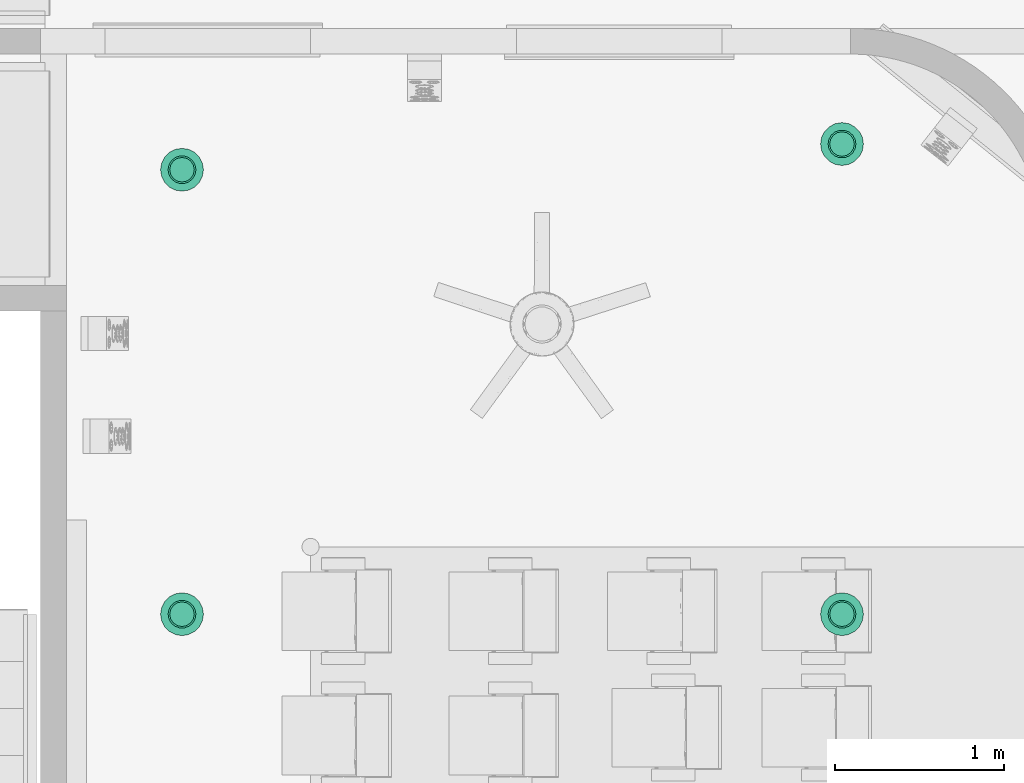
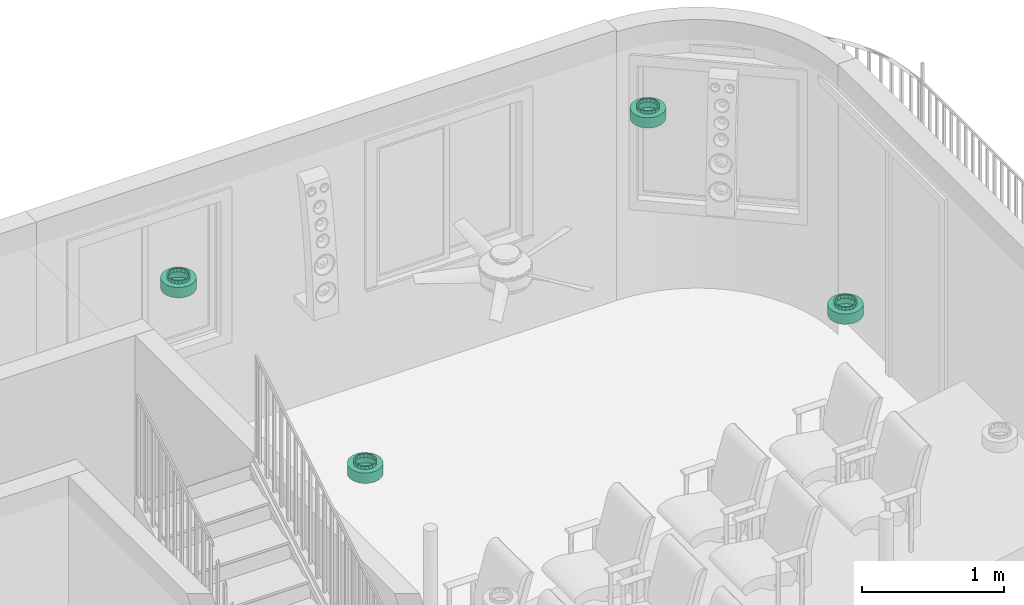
# One storey, part 17 of 21: 4 flow terminals.
"""IFC2X3 building model written with IfcOpenShell, lengths in feet."""

import ifcopenshell
import ifcopenshell.guid

model = None  # the IFC model being written
_history = None  # IfcOwnerHistory: only IFC2X3 demands one
_inside = {}  # id of a spatial element -> (the spatial element, [elements in it])
_under = {}  # id of a project, library or spatial element -> (it, [spatial elements below it])
_declared = {}  # id of a project -> (the project, [libraries it declares])
_typed = {}  # id of a type object -> (the type object, [elements of that type])
_made_of = {}  # id of a material, layer set ... -> (it, [elements and type objects made of it])


def new_model(schema):
    """Start an empty IFC model of exactly this schema.

    Asked for "IFC4X3", IfcOpenShell would pick the latest addendum, in which some entities
    have other attributes; the version numbers below select the first issue.
    IFC2X3 requires an IfcOwnerHistory on every rooted entity: one is made here for all.
    """
    global model, _history
    if schema == "IFC4X3":
        model = ifcopenshell.file(schema_version=(4, 3, 0, 0))
    else:
        model = ifcopenshell.file(schema=schema)
    _inside.clear()
    _under.clear()
    _declared.clear()
    _typed.clear()
    _made_of.clear()
    _history = None
    if model.schema == "IFC2X3":
        org = make("IfcOrganization", Name="unknown")
        user = make(
            "IfcPersonAndOrganization",
            ThePerson=make("IfcPerson", FamilyName="unknown"),
            TheOrganization=org,
        )
        app = make(
            "IfcApplication",
            ApplicationDeveloper=org,
            Version="unknown",
            ApplicationFullName="unknown",
            ApplicationIdentifier="unknown",
        )
        _history = make(
            "IfcOwnerHistory",
            OwningUser=user,
            OwningApplication=app,
            ChangeAction="ADDED",
            CreationDate=0,
        )
    return model


def make(cls, **values):
    """One entity of the class cls with the attributes given. An attribute that is None is left unset."""
    return model.create_entity(
        cls, **{name: value for name, value in values.items() if value is not None}
    )


def entity(cls, *values):
    """Any entity or typed value of the class cls, its attributes in the order of the schema. None: left unset."""
    e = model.create_entity(cls)
    for i, value in enumerate(values):
        if value is not None:
            e[i] = value
    return e


def rooted(cls, **values):
    """An entity with a GlobalId (a new one), such as an element, a storey or a relation."""
    return make(cls, GlobalId=ifcopenshell.guid.new(), OwnerHistory=_history, **values)


def si_unit(unit_type, name, prefix=None):
    """IfcSIUnit, for example si_unit("LENGTHUNIT", "METRE", prefix="MILLI")."""
    return make("IfcSIUnit", UnitType=unit_type, Prefix=prefix, Name=name)


def converted_unit(unit_type, name, factor, base, dimensions=None, offset=None):
    """IfcConversionBasedUnit, such as the inch: factor (a typed value) times the base unit."""
    return make(
        "IfcConversionBasedUnit"
        if offset is None
        else "IfcConversionBasedUnitWithOffset",
        ConversionOffset=offset,
        Dimensions=None
        if dimensions is None
        else entity("IfcDimensionalExponents", *dimensions),
        UnitType=unit_type,
        Name=name,
        ConversionFactor=make(
            "IfcMeasureWithUnit", ValueComponent=factor, UnitComponent=base
        ),
    )


def derived_unit(unit_type, elements):
    """IfcDerivedUnit: a product of units, each with its exponent."""
    return make(
        "IfcDerivedUnit",
        Elements=[
            make("IfcDerivedUnitElement", Unit=unit, Exponent=power)
            for unit, power in elements
        ],
        UnitType=unit_type,
    )


def assignment(units):
    """IfcUnitAssignment: the units of a project."""
    return None if units is None else make("IfcUnitAssignment", Units=units)


def point(xyz):
    """IfcCartesianPoint."""
    return None if xyz is None else make("IfcCartesianPoint", Coordinates=xyz)


def direction(xyz):
    """IfcDirection."""
    return None if xyz is None else make("IfcDirection", DirectionRatios=xyz)


def frame(location, z_axis=None, x_axis=None):
    """IfcAxis2Placement3D, a coordinate frame: its origin and axes. An axis left out is left unset."""
    return make(
        "IfcAxis2Placement3D",
        Location=point(location),
        Axis=direction(z_axis),
        RefDirection=direction(x_axis),
    )


def origin():
    """The frame at (0, 0, 0) with its axes left unset."""
    return frame((0.0, 0.0, 0.0))


def place(relative_to, where):
    """IfcLocalPlacement: puts the frame where relative to a parent placement (None: the world)."""
    return make(
        "IfcLocalPlacement", PlacementRelTo=relative_to, RelativePlacement=where
    )


def context(
    kind, dimensions, precision=None, world=None, true_north=None, identifier=None
):
    """IfcGeometricRepresentationContext, for example the 3D "Model" context."""
    return make(
        "IfcGeometricRepresentationContext",
        ContextIdentifier=identifier,
        ContextType=kind,
        CoordinateSpaceDimension=dimensions,
        Precision=precision,
        WorldCoordinateSystem=world,
        TrueNorth=true_north,
    )


def subcontext(parent, identifier, kind, view, scale=None):
    """IfcGeometricRepresentationSubContext, for example "Body" below "Model"."""
    return make(
        "IfcGeometricRepresentationSubContext",
        ContextIdentifier=identifier,
        ContextType=kind,
        ParentContext=parent,
        TargetScale=scale,
        TargetView=view,
    )


def project(units=None, contexts=None):
    """IfcProject with its units and contexts."""
    return rooted(
        "IfcProject",
        Name="project",
        RepresentationContexts=contexts,
        UnitsInContext=assignment(units),
    )


def spatial(cls, under=None, at=None, **own):
    """A site, building, storey or space (cls), placed at a placement, below another one or the project."""
    s = rooted(cls, ObjectPlacement=at, **own)
    if under is not None:
        _under.setdefault(under.id(), (under, []))[1].append(s)
    return s


def faces_of(points, faces, orient=None, outer=None):
    """IfcFace entities. A face is a list of loops; a loop is a list of indices into points, from 0.

    orient and outer hold one flag for each loop. By default every Orientation is true, the
    first loop of a face is its IfcFaceOuterBound and the others are IfcFaceBound.
    """
    made = []
    for i, loops in enumerate(faces):
        bounds = []
        for j, loop in enumerate(loops):
            is_outer = j == 0 if outer is None else outer[i][j]
            bounds.append(
                make(
                    "IfcFaceOuterBound" if is_outer else "IfcFaceBound",
                    Bound=make("IfcPolyLoop", Polygon=[points[k] for k in loop]),
                    Orientation=True if orient is None else orient[i][j],
                )
            )
        made.append(make("IfcFace", Bounds=bounds))
    return made


def faceted_brep(points, faces, orient=None, outer=None, voids=None):
    """IfcFacetedBrep: a solid bounded by flat faces; with voids (closed shells), ...WithVoids."""
    shared = [point(p) for p in points]
    hull = make("IfcClosedShell", CfsFaces=faces_of(shared, faces, orient, outer))
    if voids is None:
        return make("IfcFacetedBrep", Outer=hull)
    return make(
        "IfcFacetedBrepWithVoids",
        Outer=hull,
        Voids=[
            make(cls, CfsFaces=faces_of(shared, fs, o, b)) for cls, fs, o, b in voids
        ],
    )


def shape(context_of_items, identifier, shape_type, items):
    """IfcShapeRepresentation: the items that make up one representation, for example the "Body"."""
    return make(
        "IfcShapeRepresentation",
        ContextOfItems=context_of_items,
        RepresentationIdentifier=identifier,
        RepresentationType=shape_type,
        Items=items,
    )


def source(mapping_origin, context_of_items, identifier, shape_type, items):
    """IfcRepresentationMap: a shape defined once, which mapped items show again and again."""
    return make(
        "IfcRepresentationMap",
        MappingOrigin=mapping_origin,
        MappedRepresentation=shape(context_of_items, identifier, shape_type, items),
    )


def transform(
    local_origin,
    x_axis=None,
    y_axis=None,
    z_axis=None,
    scale=None,
    scale2=None,
    scale3=None,
    uniform=True,
):
    """IfcCartesianTransformationOperator3D, or its non-uniform kind. x_axis, y_axis, z_axis: its Axis1, 2, 3."""
    if uniform:
        return make(
            "IfcCartesianTransformationOperator3D",
            Axis1=direction(x_axis),
            Axis2=direction(y_axis),
            LocalOrigin=point(local_origin),
            Scale=scale,
            Axis3=direction(z_axis),
        )
    return make(
        "IfcCartesianTransformationOperator3DnonUniform",
        Axis1=direction(x_axis),
        Axis2=direction(y_axis),
        LocalOrigin=point(local_origin),
        Scale=scale,
        Axis3=direction(z_axis),
        Scale2=scale2,
        Scale3=scale3,
    )


def mapped(mapping_source, mapping_target):
    """IfcMappedItem: shows the shape of a source again, moved by a transform."""
    return make(
        "IfcMappedItem", MappingSource=mapping_source, MappingTarget=mapping_target
    )


def material(Name=None, Category=None):
    """IfcMaterial."""
    return make("IfcMaterial", Name=Name, Category=Category)


def material_list(materials):
    """IfcMaterialList."""
    return make("IfcMaterialList", Materials=materials)


def made_of(thing, what):
    """Note that an element or type object is made of a material, layer set ...; save() writes the relation."""
    if what is not None:
        _made_of.setdefault(what.id(), (what, []))[1].append(thing)
    return thing


def type_object(cls, material=None, **own):
    """A type object (cls), such as IfcWallType, which elements share."""
    return made_of(rooted(cls, **own), material)


def type_shapes(of_type, sources):
    """Give a type object the sources (RepresentationMaps) that its elements show as mapped items."""
    of_type.RepresentationMaps = sources


def element(
    cls,
    number,
    at=None,
    inside=None,
    cuts=None,
    type_object=None,
    material=None,
    context=None,
    identifier="Body",
    shape_type=None,
    held_by="IfcProductDefinitionShape",
    body=None,
    shapes=None,
    **own,
):
    """One element of the class cls, such as IfcWall. Its Tag is "e" and its number.

    at: its placement. inside: the storey or other place that contains it. cuts: it is an
    opening in that element (IfcRelVoidsElement). A single representation is given by context,
    identifier, shape_type and body (its items); several are given by shapes. held_by: the class
    of the entity that holds the representations. save() writes the other relations.
    """
    e = rooted(cls, Tag="e%d" % number, ObjectPlacement=at, **own)
    if body is not None:
        shapes = [shape(context, identifier, shape_type, body)]
    if shapes is not None:
        e.Representation = make(held_by, Representations=shapes)
    if inside is not None:
        _inside.setdefault(inside.id(), (inside, []))[1].append(e)
    if cuts is not None:
        rooted(
            "IfcRelVoidsElement", RelatingBuildingElement=cuts, RelatedOpeningElement=e
        )
    if type_object is not None:
        _typed.setdefault(type_object.id(), (type_object, []))[1].append(e)
    return made_of(e, material)


def aggregate(whole, parts):
    """IfcRelAggregates: a whole, such as a stair, and the parts it consists of."""
    return rooted("IfcRelAggregates", RelatingObject=whole, RelatedObjects=parts)


def save(model, path):
    """Write the relations noted so far, then the file.

    IfcRelAggregates (storeys below a building ...), IfcRelContainedInSpatialStructure (elements
    in a storey), IfcRelDefinesByType, IfcRelAssociatesMaterial and IfcRelDeclares: one each for
    every whole, place, type object, material and project.
    """
    for whole, parts in _under.values():
        aggregate(whole, parts)
    for where, things in _inside.values():
        rooted(
            "IfcRelContainedInSpatialStructure",
            RelatedElements=things,
            RelatingStructure=where,
        )
    for kind, things in _typed.values():
        rooted("IfcRelDefinesByType", RelatedObjects=things, RelatingType=kind)
    for what, things in _made_of.values():
        rooted("IfcRelAssociatesMaterial", RelatedObjects=things, RelatingMaterial=what)
    for by, libraries in _declared.values():
        rooted("IfcRelDeclares", RelatingContext=by, RelatedDefinitions=libraries)
    model.write(path)


model = new_model("IFC2X3")

# Units and contexts
model_context = context("Model", 3, precision=0.0001, world=origin(), true_north=direction((6.12303176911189e-17, 1.0)))
body_context = subcontext(model_context, "Body", "Model", "MODEL_VIEW")
ifc_project = project(units=[converted_unit("LENGTHUNIT", "FOOT", entity("IfcRatioMeasure", 0.3048), si_unit("LENGTHUNIT", "METRE"), dimensions=[1, 0, 0, 0, 0, 0, 0]), converted_unit("AREAUNIT", "SQUARE FOOT", entity("IfcRatioMeasure", 0.09290304), si_unit("AREAUNIT", "SQUARE_METRE"), dimensions=[2, 0, 0, 0, 0, 0, 0]), converted_unit("VOLUMEUNIT", "CUBIC FOOT", entity("IfcRatioMeasure", 0.028316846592), si_unit("VOLUMEUNIT", "CUBIC_METRE"), dimensions=[3, 0, 0, 0, 0, 0, 0]), converted_unit("PLANEANGLEUNIT", "DEGREE", entity("IfcRatioMeasure", 0.0174532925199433), si_unit("PLANEANGLEUNIT", "RADIAN"), dimensions=[0, 0, 0, 0, 0, 0, 0]), si_unit("MASSUNIT", "GRAM", prefix="KILO"), derived_unit("MASSDENSITYUNIT", [(si_unit("MASSUNIT", "GRAM", prefix="KILO"), 1), (si_unit("LENGTHUNIT", "METRE"), -3)]), si_unit("TIMEUNIT", "SECOND"), si_unit("FREQUENCYUNIT", "HERTZ"), si_unit("THERMODYNAMICTEMPERATUREUNIT", "DEGREE_CELSIUS"), derived_unit("THERMALTRANSMITTANCEUNIT", [(si_unit("MASSUNIT", "GRAM", prefix="KILO"), 1), (si_unit("THERMODYNAMICTEMPERATUREUNIT", "KELVIN"), -1), (si_unit("TIMEUNIT", "SECOND"), -3)]), derived_unit("VOLUMETRICFLOWRATEUNIT", [(si_unit("LENGTHUNIT", "METRE"), 3), (si_unit("TIMEUNIT", "SECOND"), -1)]), si_unit("ELECTRICCURRENTUNIT", "AMPERE"), si_unit("ELECTRICVOLTAGEUNIT", "VOLT"), si_unit("POWERUNIT", "WATT"), si_unit("FORCEUNIT", "NEWTON"), si_unit("ILLUMINANCEUNIT", "LUX"), si_unit("LUMINOUSFLUXUNIT", "LUMEN"), si_unit("LUMINOUSINTENSITYUNIT", "CANDELA"), derived_unit("USERDEFINED", [(si_unit("MASSUNIT", "GRAM", prefix="KILO"), -1), (si_unit("LENGTHUNIT", "METRE"), -2), (si_unit("TIMEUNIT", "SECOND"), 3), (si_unit("LUMINOUSFLUXUNIT", "LUMEN"), 1)]), derived_unit("LINEARVELOCITYUNIT", [(si_unit("LENGTHUNIT", "METRE"), 1), (si_unit("TIMEUNIT", "SECOND"), -1)]), si_unit("PRESSUREUNIT", "PASCAL"), derived_unit("USERDEFINED", [(si_unit("LENGTHUNIT", "METRE"), -2), (si_unit("MASSUNIT", "GRAM", prefix="KILO"), 1), (si_unit("TIMEUNIT", "SECOND"), -2)])], contexts=[model_context])

# Site, building, storey
site_placement = place(None, origin())
site = spatial("IfcSite", under=ifc_project, at=site_placement, Name="表面", CompositionType="ELEMENT")
building_placement = place(site_placement, origin())
building = spatial("IfcBuilding", under=site, at=building_placement, CompositionType="ELEMENT")
storey_placement = place(building_placement, origin())
storey = spatial("IfcBuildingStorey", under=building, at=storey_placement, Name="Level 1", CompositionType="ELEMENT", Elevation=0.0)

# Flow terminals
ifc_material_1 = material(Name="Metal - Paint Finish - Dark Gray, Matte")
ifc_material_2 = material(Name="Glass - White, High Luminance")
ifc_material_list_1 = material_list([ifc_material_1, ifc_material_2])
ifc_material_list_2 = material_list([ifc_material_1, ifc_material_2])
light_fixture_type = type_object("IfcLightFixtureType", Name="100W - 120V", PredefinedType="NOTDEFINED", material=ifc_material_list_2)
shared_shape = source(origin(), body_context, "Body", "Brep", [
    faceted_brep([(0.557291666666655, 0.187326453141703, 0.374999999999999), (0.598651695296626, 0.245098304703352, 0.374999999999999), (0.558098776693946, 0.218001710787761, 0.374999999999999), (0.629345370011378, 0.247786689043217, 0.374999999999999), (0.517545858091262, 0.190905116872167, 0.374999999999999), (0.468904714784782, 0.155156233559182, 0.374999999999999), (0.625748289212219, 0.285651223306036, 0.374999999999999), (0.65284488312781, 0.326204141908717, 0.374999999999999), (0.676375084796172, 0.329244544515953, 0.374999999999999), (0.6623599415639, 0.374039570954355, 0.374999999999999), (0.671874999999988, 0.42187499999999, 0.374999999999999), (0.692708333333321, 0.421874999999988, 0.374999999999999), (0.676375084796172, 0.514505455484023, 0.374999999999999), (0.662359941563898, 0.469710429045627, 0.374999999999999), (0.652844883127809, 0.517545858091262, 0.374999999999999), (0.629345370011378, 0.595963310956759, 0.374999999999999), (0.625748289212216, 0.558098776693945, 0.374999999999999), (0.598651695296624, 0.598651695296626, 0.374999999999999), (0.557291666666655, 0.656423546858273, 0.374999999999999), (0.55809877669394, 0.625748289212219, 0.374999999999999), (0.517545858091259, 0.65284488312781, 0.374999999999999), (0.468904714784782, 0.688593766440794, 0.374999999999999), (0.469710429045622, 0.662359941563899, 0.374999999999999), (0.421874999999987, 0.671874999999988, 0.374999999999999), (0.374845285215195, 0.688593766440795, 0.374999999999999), (0.374039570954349, 0.662359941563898, 0.374999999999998), (0.326204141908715, 0.652844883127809, 0.374999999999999), (0.286458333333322, 0.656423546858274, 0.374999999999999), (0.285651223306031, 0.625748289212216, 0.374999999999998), (0.245098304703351, 0.598651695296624, 0.374999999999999), (0.214404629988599, 0.59596331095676, 0.374999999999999), (0.218001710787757, 0.558098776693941, 0.374999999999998), (0.190905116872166, 0.51754585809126, 0.374999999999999), (0.167374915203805, 0.514505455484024, 0.374999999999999), (0.181390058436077, 0.469710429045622, 0.374999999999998), (0.171874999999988, 0.421874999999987, 0.374999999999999), (0.151041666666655, 0.421874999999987, 0.374999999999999), (0.167374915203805, 0.329244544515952, 0.374999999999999), (0.181390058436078, 0.374039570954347, 0.374999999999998), (0.190905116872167, 0.326204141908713, 0.374999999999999), (0.214404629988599, 0.247786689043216, 0.374999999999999), (0.218001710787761, 0.28565122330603, 0.374999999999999), (0.245098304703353, 0.245098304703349, 0.374999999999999), (0.286458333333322, 0.187326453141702, 0.374999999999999), (0.285651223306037, 0.218001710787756, 0.374999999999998), (0.326204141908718, 0.190905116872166, 0.374999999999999), (0.374845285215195, 0.155156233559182, 0.374999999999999), (0.42187499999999, 0.171874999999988, 0.374999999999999), (0.374039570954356, 0.181390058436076, 0.374999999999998), (0.469710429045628, 0.181390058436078, 0.374999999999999), (0.557291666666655, 0.656423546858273, 0.291666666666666), (0.598651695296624, 0.598651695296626, 0.291666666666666), (0.55809877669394, 0.625748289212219, 0.291666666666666), (0.629345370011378, 0.595963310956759, 0.291666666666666), (0.517545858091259, 0.65284488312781, 0.291666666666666), (0.468904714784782, 0.688593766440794, 0.291666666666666), (0.625748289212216, 0.558098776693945, 0.291666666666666), (0.652844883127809, 0.517545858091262, 0.291666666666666), (0.676375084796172, 0.514505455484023, 0.291666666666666), (0.662359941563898, 0.469710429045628, 0.291666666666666), (0.671874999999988, 0.42187499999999, 0.291666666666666), (0.692708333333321, 0.421874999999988, 0.291666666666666), (0.676375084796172, 0.329244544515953, 0.291666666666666), (0.659760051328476, 0.36096904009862, 0.291666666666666), (0.65284488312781, 0.326204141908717, 0.291666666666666), (0.629345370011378, 0.247786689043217, 0.291666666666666), (0.625748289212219, 0.285651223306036, 0.291666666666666), (0.598651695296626, 0.245098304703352, 0.291666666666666), (0.557291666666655, 0.187326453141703, 0.291666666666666), (0.558098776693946, 0.218001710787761, 0.291666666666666), (0.517545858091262, 0.190905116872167, 0.291666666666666), (0.468904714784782, 0.155156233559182, 0.291666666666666), (0.469710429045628, 0.181390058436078, 0.291666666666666), (0.42187499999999, 0.171874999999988, 0.291666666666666), (0.374845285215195, 0.155156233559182, 0.291666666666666), (0.374039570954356, 0.181390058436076, 0.291666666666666), (0.326204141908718, 0.190905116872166, 0.291666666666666), (0.286458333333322, 0.187326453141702, 0.291666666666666), (0.285651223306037, 0.218001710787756, 0.291666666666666), (0.245098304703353, 0.245098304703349, 0.291666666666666), (0.214404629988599, 0.247786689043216, 0.291666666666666), (0.218001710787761, 0.28565122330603, 0.291666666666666), (0.190905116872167, 0.326204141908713, 0.291666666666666), (0.167374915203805, 0.329244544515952, 0.291666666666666), (0.181390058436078, 0.374039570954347, 0.291666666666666), (0.171874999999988, 0.421874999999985, 0.291666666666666), (0.151041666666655, 0.421874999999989, 0.291666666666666), (0.167374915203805, 0.514505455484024, 0.291666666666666), (0.183989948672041, 0.482780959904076, 0.291666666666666), (0.190905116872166, 0.51754585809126, 0.291666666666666), (0.214404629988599, 0.59596331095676, 0.291666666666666), (0.218001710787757, 0.558098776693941, 0.291666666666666), (0.245098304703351, 0.598651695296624, 0.291666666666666), (0.286458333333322, 0.656423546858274, 0.291666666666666), (0.285651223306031, 0.625748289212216, 0.291666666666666), (0.326204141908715, 0.652844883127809, 0.291666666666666), (0.374845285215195, 0.688593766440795, 0.291666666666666), (0.421874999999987, 0.671874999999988, 0.291666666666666), (0.374039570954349, 0.662359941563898, 0.291666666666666), (0.469710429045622, 0.662359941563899, 0.291666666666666)], [[[0, 1, 2]], [[1, 0, 3]], [[0, 2, 4]], [[4, 5, 0]], [[3, 6, 1]], [[3, 7, 6]], [[7, 3, 8]], [[8, 9, 7]], [[8, 10, 9]], [[10, 8, 11]], [[10, 11, 12]], [[12, 13, 10]], [[12, 14, 13]], [[15, 14, 12]], [[15, 16, 14]], [[15, 17, 16]], [[18, 17, 15]], [[18, 19, 17]], [[18, 20, 19]], [[21, 20, 18]], [[21, 22, 20]], [[21, 23, 22]], [[24, 23, 21]], [[24, 25, 23]], [[24, 26, 25]], [[27, 26, 24]], [[27, 28, 26]], [[27, 29, 28]], [[29, 27, 30]], [[30, 31, 29]], [[30, 32, 31]], [[32, 30, 33]], [[33, 34, 32]], [[33, 35, 34]], [[36, 35, 33]], [[37, 35, 36]], [[37, 38, 35]], [[37, 39, 38]], [[39, 37, 40]], [[40, 41, 39]], [[40, 42, 41]], [[42, 40, 43]], [[43, 44, 42]], [[43, 45, 44]], [[45, 43, 46]], [[47, 46, 5]], [[46, 47, 48]], [[46, 48, 45]], [[5, 4, 49]], [[5, 49, 47]], [[50, 51, 52]], [[51, 50, 53]], [[50, 52, 54]], [[54, 55, 50]], [[53, 56, 51]], [[53, 57, 56]], [[57, 53, 58]], [[58, 59, 57]], [[58, 60, 59]], [[60, 58, 61]], [[60, 61, 62]], [[62, 63, 60]], [[62, 64, 63]], [[65, 64, 62]], [[65, 66, 64]], [[65, 67, 66]], [[68, 67, 65]], [[68, 69, 67]], [[68, 70, 69]], [[71, 70, 68]], [[71, 72, 70]], [[71, 73, 72]], [[74, 73, 71]], [[74, 75, 73]], [[74, 76, 75]], [[77, 76, 74]], [[77, 78, 76]], [[77, 79, 78]], [[79, 77, 80]], [[80, 81, 79]], [[80, 82, 81]], [[82, 80, 83]], [[83, 84, 82]], [[83, 85, 84]], [[86, 85, 83]], [[87, 85, 86]], [[87, 88, 85]], [[87, 89, 88]], [[89, 87, 90]], [[90, 91, 89]], [[90, 92, 91]], [[92, 90, 93]], [[93, 94, 92]], [[93, 95, 94]], [[95, 93, 96]], [[97, 96, 55]], [[96, 97, 98]], [[96, 98, 95]], [[55, 54, 99]], [[55, 99, 97]], [[37, 36, 86, 83]], [[43, 40, 80, 77]], [[83, 80, 40, 37]], [[77, 74, 46, 43]], [[74, 71, 5, 46]], [[0, 5, 71, 68]], [[8, 3, 65, 62]], [[68, 65, 3, 0]], [[62, 61, 11, 8]], [[12, 11, 61, 58]], [[18, 15, 53, 50]], [[58, 53, 15, 12]], [[50, 55, 21, 18]], [[55, 96, 24, 21]], [[27, 24, 96, 93]], [[87, 33, 30, 90]], [[90, 30, 27, 93]], [[33, 87, 86, 36]], [[34, 35, 85, 88, 89, 32]], [[89, 91, 92, 29, 31, 32]], [[59, 60, 10, 13, 14, 57]], [[92, 94, 95, 26, 28, 29]], [[23, 25, 26, 95, 98, 97]], [[97, 99, 54, 20, 22, 23]], [[16, 17, 51, 56, 57, 14]], [[54, 52, 51, 17, 19, 20]], [[9, 10, 60, 63, 64, 7]], [[64, 66, 67, 1, 6, 7]], [[84, 85, 35, 38, 39, 82]], [[67, 69, 70, 4, 2, 1]], [[47, 49, 4, 70, 72, 73]], [[73, 75, 76, 45, 48, 47]], [[41, 42, 79, 81, 82, 39]], [[76, 78, 79, 42, 44, 45]]]),
    faceted_brep([(0.671874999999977, 0.421874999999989, 0.291666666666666), (0.838541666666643, 0.421874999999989, 0.291666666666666), (0.81814854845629, 0.550632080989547, 0.291666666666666), (0.818148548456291, 0.293117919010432, 0.291666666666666), (0.659760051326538, 0.360969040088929, 0.291666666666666), (0.662359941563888, 0.469710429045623, 0.291666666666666), (0.6528448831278, 0.326204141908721, 0.291666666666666), (0.758965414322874, 0.176964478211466, 0.291666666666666), (0.625748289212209, 0.28565122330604, 0.291666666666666), (0.598651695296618, 0.24509830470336, 0.291666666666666), (0.666785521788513, 0.084784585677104, 0.291666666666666), (0.558098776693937, 0.218001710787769, 0.291666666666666), (0.517545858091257, 0.190905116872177, 0.291666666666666), (0.550632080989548, 0.025601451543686, 0.291666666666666), (0.469710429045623, 0.181390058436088, 0.291666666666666), (0.421874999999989, 0.171874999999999, 0.291666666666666), (0.42187499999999, 0.00520833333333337, 0.291666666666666), (0.293117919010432, 0.0256014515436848, 0.291666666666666), (0.374039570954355, 0.181390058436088, 0.291666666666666), (0.326204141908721, 0.190905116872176, 0.291666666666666), (0.176964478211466, 0.0847845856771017, 0.291666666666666), (0.285651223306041, 0.218001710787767, 0.291666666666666), (0.24509830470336, 0.245098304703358, 0.291666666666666), (0.0847845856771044, 0.176964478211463, 0.291666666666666), (0.218001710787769, 0.285651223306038, 0.291666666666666), (0.190905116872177, 0.326204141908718, 0.291666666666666), (0.0256014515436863, 0.293117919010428, 0.291666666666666), (0.181390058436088, 0.374039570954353, 0.291666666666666), (0.171874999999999, 0.421874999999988, 0.291666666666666), (0.00520833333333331, 0.421874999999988, 0.291666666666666), (0.0256014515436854, 0.550632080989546, 0.291666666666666), (0.183989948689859, 0.482780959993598, 0.291666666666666), (0.190905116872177, 0.517545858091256, 0.291666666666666), (0.0847845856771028, 0.666785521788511, 0.291666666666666), (0.218001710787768, 0.558098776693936, 0.291666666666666), (0.245098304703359, 0.598651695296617, 0.291666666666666), (0.176964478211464, 0.758965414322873, 0.291666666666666), (0.285651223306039, 0.625748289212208, 0.291666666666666), (0.32620414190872, 0.652844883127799, 0.291666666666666), (0.29311791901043, 0.81814854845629, 0.291666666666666), (0.374039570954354, 0.662359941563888, 0.291666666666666), (0.421874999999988, 0.671874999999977, 0.291666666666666), (0.421874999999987, 0.838541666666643, 0.291666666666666), (0.550632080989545, 0.818148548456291, 0.291666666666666), (0.469710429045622, 0.662359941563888, 0.291666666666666), (0.517545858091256, 0.6528448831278, 0.291666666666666), (0.666785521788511, 0.758965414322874, 0.291666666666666), (0.558098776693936, 0.625748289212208, 0.291666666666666), (0.598651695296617, 0.598651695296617, 0.291666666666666), (0.758965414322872, 0.666785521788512, 0.291666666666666), (0.625748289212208, 0.558098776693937, 0.291666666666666), (0.652844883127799, 0.517545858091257, 0.291666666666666), (0.0256014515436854, 0.550632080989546, 0.0), (0.00520833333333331, 0.421874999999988, 0.0), (0.0847845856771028, 0.666785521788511, 0.0), (0.176964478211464, 0.758965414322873, 0.0), (0.29311791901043, 0.818148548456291, 0.0), (0.421874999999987, 0.838541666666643, 0.0), (0.550632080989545, 0.818148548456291, 0.0), (0.666785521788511, 0.758965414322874, 0.0), (0.758965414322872, 0.666785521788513, 0.0), (0.81814854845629, 0.550632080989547, 0.0), (0.838541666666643, 0.42187499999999, 0.0), (0.818148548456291, 0.293117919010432, 0.0), (0.666785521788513, 0.0847845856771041, 0.0), (0.550632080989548, 0.025601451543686, 0.0), (0.42187499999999, 0.00520833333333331, 0.0), (0.758965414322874, 0.176964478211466, 0.0), (0.293117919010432, 0.0256014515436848, 0.0), (0.176964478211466, 0.0847845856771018, 0.0), (0.0847845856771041, 0.176964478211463, 0.0), (0.025601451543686, 0.293117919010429, 0.0), (0.421874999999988, 0.421874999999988, 0.0), (0.808241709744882, 0.547413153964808, 0.0104166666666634), (0.421874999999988, 0.421874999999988, 0.0104166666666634), (0.828124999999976, 0.421874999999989, 0.0104166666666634), (0.7505381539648, 0.660662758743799, 0.0104166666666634), (0.660662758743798, 0.750538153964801, 0.0104166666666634), (0.547413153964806, 0.808241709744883, 0.0104166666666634), (0.421874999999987, 0.828124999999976, 0.0104166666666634), (0.296336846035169, 0.808241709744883, 0.0104166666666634), (0.183087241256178, 0.750538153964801, 0.0104166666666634), (0.0932118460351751, 0.660662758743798, 0.0104166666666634), (0.0355082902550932, 0.547413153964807, 0.0104166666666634), (0.0156249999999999, 0.421874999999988, 0.0104166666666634), (0.0355082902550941, 0.296336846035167, 0.0104166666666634), (0.0932118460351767, 0.183087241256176, 0.0104166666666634), (0.18308724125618, 0.093211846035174, 0.0104166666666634), (0.296336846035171, 0.0355082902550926, 0.0104166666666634), (0.42187499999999, 0.0156249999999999, 0.0104166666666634), (0.547413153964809, 0.0355082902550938, 0.0104166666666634), (0.6606627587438, 0.0932118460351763, 0.0104166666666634), (0.750538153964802, 0.183087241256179, 0.0104166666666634), (0.808241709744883, 0.296336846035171, 0.0104166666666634), (0.0355082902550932, 0.547413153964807, 0.281249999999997), (0.0156249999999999, 0.421874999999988, 0.281249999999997), (0.0932118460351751, 0.660662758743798, 0.281249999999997), (0.183087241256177, 0.750538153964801, 0.281249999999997), (0.296336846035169, 0.808241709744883, 0.281249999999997), (0.421874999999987, 0.828124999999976, 0.281249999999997), (0.660662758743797, 0.750538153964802, 0.281249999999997), (0.547413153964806, 0.808241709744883, 0.281249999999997), (0.808241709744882, 0.547413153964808, 0.281249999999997), (0.7505381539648, 0.660662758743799, 0.281249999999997), (0.828124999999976, 0.42187499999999, 0.281249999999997), (0.808241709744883, 0.296336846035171, 0.281249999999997), (0.547413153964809, 0.0355082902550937, 0.281249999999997), (0.6606627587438, 0.0932118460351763, 0.281249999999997), (0.42187499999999, 0.0156249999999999, 0.281249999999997), (0.750538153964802, 0.183087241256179, 0.281249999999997), (0.183087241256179, 0.0932118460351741, 0.281249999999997), (0.296336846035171, 0.0355082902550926, 0.281249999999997), (0.0355082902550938, 0.296336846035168, 0.281249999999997), (0.0932118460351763, 0.183087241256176, 0.281249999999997), (0.66145833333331, 0.421874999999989, 0.281249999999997), (0.650878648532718, 0.475062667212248, 0.281249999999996), (0.643221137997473, 0.513559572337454, 0.281249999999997), (0.650878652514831, 0.368687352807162, 0.281249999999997), (0.643221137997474, 0.330190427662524, 0.281249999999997), (0.617253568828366, 0.291327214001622, 0.281249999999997), (0.591285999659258, 0.25246400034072, 0.281249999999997), (0.552422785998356, 0.226496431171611, 0.281249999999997), (0.513559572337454, 0.200528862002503, 0.281249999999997), (0.467717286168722, 0.191410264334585, 0.281249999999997), (0.421874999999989, 0.182291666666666, 0.281249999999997), (0.376032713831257, 0.191410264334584, 0.281249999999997), (0.330190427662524, 0.200528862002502, 0.281249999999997), (0.291327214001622, 0.22649643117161, 0.281249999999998), (0.25246400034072, 0.252464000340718, 0.281249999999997), (0.226496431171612, 0.29132721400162, 0.281249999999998), (0.200528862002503, 0.330190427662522, 0.281249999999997), (0.191410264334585, 0.376032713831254, 0.281249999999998), (0.182291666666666, 0.421874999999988, 0.281249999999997), (0.192871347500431, 0.47506264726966, 0.281249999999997), (0.200528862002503, 0.513559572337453, 0.281249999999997), (0.226496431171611, 0.552422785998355, 0.281249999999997), (0.252464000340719, 0.591285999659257, 0.281249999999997), (0.291327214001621, 0.617253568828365, 0.281249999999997), (0.330190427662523, 0.643221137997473, 0.281249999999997), (0.376032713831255, 0.652339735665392, 0.281249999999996), (0.421874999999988, 0.66145833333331, 0.281249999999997), (0.46771728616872, 0.652339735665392, 0.281249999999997), (0.513559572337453, 0.643221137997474, 0.281249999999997), (0.591285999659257, 0.591285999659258, 0.281249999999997), (0.552422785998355, 0.617253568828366, 0.281249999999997), (0.617253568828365, 0.552422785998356, 0.281249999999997), (0.191410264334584, 0.467717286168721, 0.375), (0.182291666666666, 0.421874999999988, 0.375), (0.200528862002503, 0.513559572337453, 0.375), (0.252464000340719, 0.591285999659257, 0.375), (0.226496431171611, 0.552422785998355, 0.375), (0.330190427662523, 0.643221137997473, 0.375), (0.291327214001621, 0.617253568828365, 0.375), (0.421874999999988, 0.66145833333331, 0.375), (0.376032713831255, 0.652339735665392, 0.375), (0.552422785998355, 0.617253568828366, 0.375), (0.513559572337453, 0.643221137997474, 0.375), (0.591285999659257, 0.591285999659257, 0.375), (0.643221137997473, 0.513559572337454, 0.375), (0.617253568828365, 0.552422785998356, 0.375), (0.46771728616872, 0.652339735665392, 0.375), (0.652339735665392, 0.467717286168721, 0.375), (0.66145833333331, 0.421874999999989, 0.375), (0.652339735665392, 0.376032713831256, 0.375), (0.643221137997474, 0.330190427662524, 0.375), (0.591285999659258, 0.25246400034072, 0.375), (0.617253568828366, 0.291327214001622, 0.375), (0.513559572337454, 0.200528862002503, 0.375), (0.552422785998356, 0.226496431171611, 0.375), (0.421874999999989, 0.182291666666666, 0.375), (0.467717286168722, 0.191410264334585, 0.375), (0.200528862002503, 0.330190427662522, 0.375), (0.192871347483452, 0.368687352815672, 0.375), (0.25246400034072, 0.252464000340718, 0.375), (0.291327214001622, 0.22649643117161, 0.375), (0.330190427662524, 0.200528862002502, 0.375), (0.226496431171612, 0.29132721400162, 0.375), (0.376032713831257, 0.191410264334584, 0.375), (0.671874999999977, 0.421874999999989, 0.375), (0.659760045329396, 0.482780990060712, 0.375), (0.652844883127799, 0.517545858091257, 0.375), (0.662359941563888, 0.374039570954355, 0.375), (0.6528448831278, 0.326204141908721, 0.375), (0.625748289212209, 0.28565122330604, 0.375), (0.598651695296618, 0.24509830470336, 0.375), (0.558098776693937, 0.218001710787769, 0.375), (0.517545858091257, 0.190905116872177, 0.375), (0.469710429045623, 0.181390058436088, 0.375), (0.421874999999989, 0.171874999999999, 0.375), (0.374039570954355, 0.181390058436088, 0.375), (0.326204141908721, 0.190905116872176, 0.375), (0.285651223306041, 0.218001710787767, 0.375), (0.24509830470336, 0.245098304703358, 0.375), (0.218001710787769, 0.285651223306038, 0.375), (0.190905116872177, 0.326204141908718, 0.375), (0.183989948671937, 0.360969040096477, 0.375), (0.171874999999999, 0.421874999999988, 0.375), (0.181390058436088, 0.469710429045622, 0.375), (0.190905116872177, 0.517545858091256, 0.375), (0.218001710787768, 0.558098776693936, 0.375), (0.245098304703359, 0.598651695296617, 0.375), (0.285651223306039, 0.625748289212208, 0.375), (0.32620414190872, 0.652844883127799, 0.375), (0.374039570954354, 0.662359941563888, 0.375), (0.421874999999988, 0.671874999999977, 0.375), (0.469710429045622, 0.662359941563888, 0.375), (0.517545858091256, 0.6528448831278, 0.375), (0.558098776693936, 0.625748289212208, 0.375), (0.598651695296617, 0.598651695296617, 0.375), (0.625748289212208, 0.558098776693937, 0.375)], [[[0, 1, 2]], [[0, 3, 1]], [[3, 0, 4]], [[2, 5, 0]], [[3, 4, 6]], [[7, 3, 6]], [[7, 6, 8]], [[7, 8, 9]], [[10, 7, 9]], [[10, 9, 11]], [[10, 11, 12]], [[10, 12, 13]], [[13, 12, 14]], [[13, 14, 15]], [[16, 13, 15]], [[16, 15, 17]], [[17, 15, 18]], [[17, 18, 19]], [[17, 19, 20]], [[20, 19, 21]], [[20, 21, 22]], [[23, 20, 22]], [[23, 22, 24]], [[23, 24, 25]], [[25, 26, 23]], [[26, 25, 27]], [[26, 27, 28]], [[29, 26, 28]], [[30, 29, 28]], [[30, 28, 31]], [[30, 31, 32]], [[30, 32, 33]], [[33, 32, 34]], [[33, 34, 35]], [[36, 33, 35]], [[36, 35, 37]], [[36, 37, 38]], [[39, 36, 38]], [[39, 38, 40]], [[39, 40, 41]], [[42, 39, 41]], [[42, 41, 43]], [[43, 41, 44]], [[43, 44, 45]], [[46, 43, 45]], [[46, 45, 47]], [[46, 47, 48]], [[46, 48, 49]], [[49, 48, 50]], [[49, 50, 51]], [[49, 51, 2]], [[2, 51, 5]], [[52, 53, 29, 30]], [[30, 33, 54, 52]], [[36, 55, 54, 33]], [[55, 36, 39, 56]], [[56, 39, 42, 57]], [[58, 43, 46, 59]], [[60, 49, 2, 61]], [[46, 49, 60, 59]], [[61, 2, 1, 62]], [[43, 58, 57, 42]], [[1, 3, 63, 62]], [[64, 10, 13, 65]], [[16, 66, 65, 13]], [[63, 3, 7, 67]], [[10, 64, 67, 7]], [[68, 17, 20, 69]], [[70, 23, 26, 71]], [[20, 23, 70, 69]], [[71, 26, 29, 53]], [[17, 68, 66, 16]], [[62, 72, 61]], [[62, 63, 72]], [[72, 63, 67]], [[72, 67, 64]], [[72, 64, 65]], [[65, 66, 72]], [[68, 72, 66]], [[72, 68, 69]], [[72, 69, 70]], [[71, 72, 70]], [[72, 71, 53]], [[72, 53, 52]], [[72, 52, 54]], [[54, 55, 72]], [[72, 55, 56]], [[56, 57, 72]], [[72, 57, 58]], [[59, 72, 58]], [[72, 59, 60]], [[61, 72, 60]], [[73, 74, 75]], [[76, 74, 73]], [[76, 77, 74]], [[78, 74, 77]], [[78, 79, 74]], [[74, 79, 80]], [[80, 81, 74]], [[74, 81, 82]], [[82, 83, 74]], [[83, 84, 74]], [[84, 85, 74]], [[86, 74, 85]], [[86, 87, 74]], [[87, 88, 74]], [[89, 74, 88]], [[74, 89, 90]], [[90, 91, 74]], [[91, 92, 74]], [[92, 93, 74]], [[74, 93, 75]], [[94, 95, 84, 83]], [[82, 96, 94, 83]], [[96, 82, 81, 97]], [[81, 80, 98, 97]], [[98, 80, 79, 99]], [[100, 101, 78, 77]], [[102, 103, 76, 73]], [[77, 76, 103, 100]], [[104, 102, 73, 75]], [[79, 78, 101, 99]], [[105, 104, 75, 93]], [[106, 107, 91, 90]], [[108, 106, 90, 89]], [[93, 92, 109, 105]], [[109, 92, 91, 107]], [[110, 111, 88, 87]], [[112, 113, 86, 85]], [[87, 86, 113, 110]], [[95, 112, 85, 84]], [[89, 88, 111, 108]], [[102, 104, 114]], [[102, 114, 115]], [[102, 115, 116]], [[102, 116, 103]], [[104, 105, 114]], [[105, 117, 114]], [[105, 118, 117]], [[118, 105, 109]], [[109, 119, 118]], [[109, 120, 119]], [[120, 109, 107]], [[107, 121, 120]], [[107, 122, 121]], [[106, 122, 107]], [[106, 123, 122]], [[106, 124, 123]], [[124, 106, 108]], [[111, 124, 108]], [[111, 125, 124]], [[111, 126, 125]], [[110, 126, 111]], [[110, 127, 126]], [[110, 128, 127]], [[128, 110, 113]], [[113, 129, 128]], [[113, 130, 129]], [[113, 112, 130]], [[112, 131, 130]], [[112, 132, 131]], [[132, 112, 95]], [[132, 95, 94]], [[94, 133, 132]], [[94, 134, 133]], [[96, 134, 94]], [[96, 135, 134]], [[96, 136, 135]], [[136, 96, 97]], [[97, 137, 136]], [[97, 138, 137]], [[138, 97, 98]], [[98, 139, 138]], [[98, 140, 139]], [[140, 98, 99]], [[101, 140, 99]], [[101, 141, 140]], [[101, 142, 141]], [[142, 101, 100]], [[103, 143, 100]], [[100, 143, 144]], [[100, 144, 142]], [[103, 116, 145]], [[103, 145, 143]], [[146, 147, 132, 133, 134, 148]], [[136, 149, 150, 148, 134, 135]], [[136, 137, 138, 151, 152, 149]], [[151, 138, 139, 140, 153, 154]], [[155, 156, 142, 144, 143, 157]], [[116, 158, 159, 157, 143, 145]], [[153, 140, 141, 142, 156, 160]], [[161, 158, 116, 115, 114, 162]], [[163, 162, 114, 117, 118, 164]], [[120, 165, 166, 164, 118, 119]], [[120, 121, 122, 167, 168, 165]], [[123, 124, 169, 170, 167, 122]], [[171, 130, 131, 132, 147, 172]], [[128, 173, 174, 175, 126, 127]], [[128, 129, 130, 171, 176, 173]], [[175, 177, 169, 124, 125, 126]], [[162, 178, 179]], [[162, 179, 180]], [[180, 161, 162]], [[162, 181, 178]], [[162, 182, 181]], [[182, 162, 163]], [[182, 163, 164]], [[164, 183, 182]], [[164, 184, 183]], [[184, 164, 166]], [[184, 166, 165]], [[165, 185, 184]], [[165, 186, 185]], [[186, 165, 168]], [[186, 168, 167]], [[167, 187, 186]], [[167, 188, 187]], [[188, 167, 170]], [[188, 170, 169]], [[188, 169, 177]], [[188, 177, 175]], [[175, 189, 188]], [[175, 190, 189]], [[190, 175, 174]], [[190, 174, 173]], [[173, 191, 190]], [[173, 192, 191]], [[192, 173, 176]], [[192, 176, 171]], [[171, 193, 192]], [[171, 194, 193]], [[194, 171, 172]], [[194, 172, 147]], [[147, 195, 194]], [[147, 196, 195]], [[147, 197, 196]], [[147, 198, 197]], [[198, 147, 146]], [[198, 146, 148]], [[148, 199, 198]], [[148, 200, 199]], [[200, 148, 150]], [[200, 150, 149]], [[149, 201, 200]], [[149, 202, 201]], [[202, 149, 152]], [[202, 152, 151]], [[151, 203, 202]], [[151, 204, 203]], [[204, 151, 154]], [[204, 154, 153]], [[204, 153, 160]], [[204, 160, 156]], [[156, 205, 204]], [[156, 206, 205]], [[206, 156, 155]], [[206, 155, 157]], [[157, 207, 206]], [[157, 208, 207]], [[208, 157, 159]], [[208, 159, 158]], [[158, 180, 209]], [[180, 158, 161]], [[158, 209, 208]], [[198, 32, 31, 28, 196, 197]], [[199, 200, 35, 34, 32, 198]], [[200, 201, 202, 38, 37, 35]], [[40, 38, 202, 203, 204, 41]], [[47, 45, 206, 207, 208, 48]], [[178, 0, 5, 51, 180, 179]], [[208, 209, 180, 51, 50, 48]], [[45, 44, 41, 204, 205, 206]], [[182, 6, 4, 0, 178, 181]], [[183, 184, 9, 8, 6, 182]], [[184, 185, 186, 12, 11, 9]], [[187, 188, 15, 14, 12, 186]], [[195, 196, 28, 27, 25, 194]], [[191, 192, 22, 21, 19, 190]], [[192, 193, 194, 25, 24, 22]], [[19, 18, 15, 188, 189, 190]]]),
])
type_shapes(light_fixture_type, [shared_shape])
flow_terminal_1_placement = place(storey_placement, frame((18.0432119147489, 5.11856459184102, 8.625)))
element("IfcFlowTerminal", 1, at=flow_terminal_1_placement, inside=storey, type_object=light_fixture_type, material=ifc_material_list_1, Name="Ceiling Light - Flat Round:100W - 120V", ObjectType="100W - 120V", context=body_context, shape_type="MappedRepresentation", body=[
    mapped(shared_shape, transform((0.0, 0.0, 0.0), scale=1.0)),
])
ifc_material_list_3 = material_list([ifc_material_1, ifc_material_2])
flow_terminal_2_placement = place(storey_placement, frame((30.8765452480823, 5.11856459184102, 8.625)))
element("IfcFlowTerminal", 2, at=flow_terminal_2_placement, inside=storey, type_object=light_fixture_type, material=ifc_material_list_3, Name="Ceiling Light - Flat Round:100W - 120V", ObjectType="100W - 120V", context=body_context, shape_type="MappedRepresentation", body=[
    mapped(shared_shape, transform((0.0, 0.0, 0.0), scale=1.0)),
])
ifc_material_list_4 = material_list([ifc_material_1, ifc_material_2])
flow_terminal_3_placement = place(storey_placement, frame((30.8765452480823, 14.2605186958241, 8.625)))
element("IfcFlowTerminal", 3, at=flow_terminal_3_placement, inside=storey, type_object=light_fixture_type, material=ifc_material_list_4, Name="Ceiling Light - Flat Round:100W - 120V", ObjectType="100W - 120V", context=body_context, shape_type="MappedRepresentation", body=[
    mapped(shared_shape, transform((0.0, 0.0, 0.0), scale=1.0)),
])
ifc_material_list_5 = material_list([ifc_material_1, ifc_material_2])
flow_terminal_4_placement = place(storey_placement, frame((18.0432119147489, 13.7605186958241, 8.625)))
element("IfcFlowTerminal", 4, at=flow_terminal_4_placement, inside=storey, type_object=light_fixture_type, material=ifc_material_list_5, Name="Ceiling Light - Flat Round:100W - 120V", ObjectType="100W - 120V", context=body_context, shape_type="MappedRepresentation", body=[
    mapped(shared_shape, transform((0.0, 0.0, 0.0), scale=1.0)),
])

save(model, "model.ifc")
